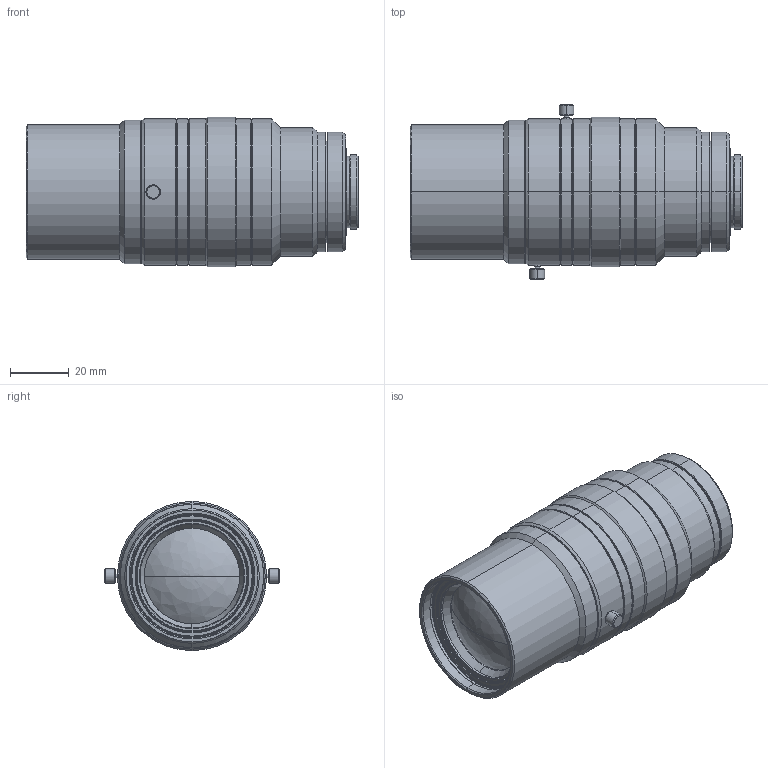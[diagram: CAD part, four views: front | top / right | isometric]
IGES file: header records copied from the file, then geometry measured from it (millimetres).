
Start section: SolidWorks IGES file using analytic representation for surfaces
Bounding box: 113.47 x 60.1 x 51 mm (x, y, z)
Surface area: 24084.7 mm2 (no closed solid volume)
Topology: 0 solids, 0 shells, 176 faces, 3412 edges, 3411 vertices
Faces by surface type: revolution 148, bspline 28
